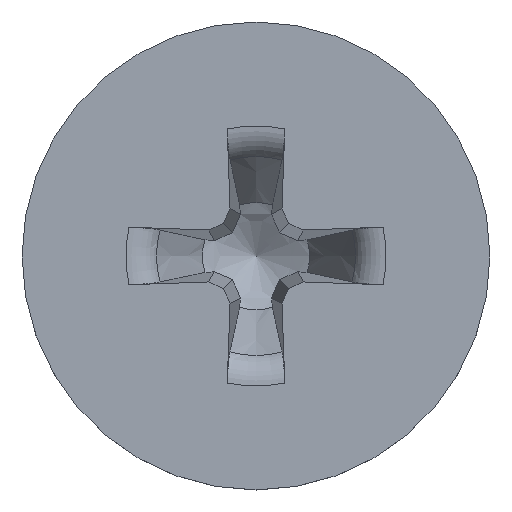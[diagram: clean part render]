
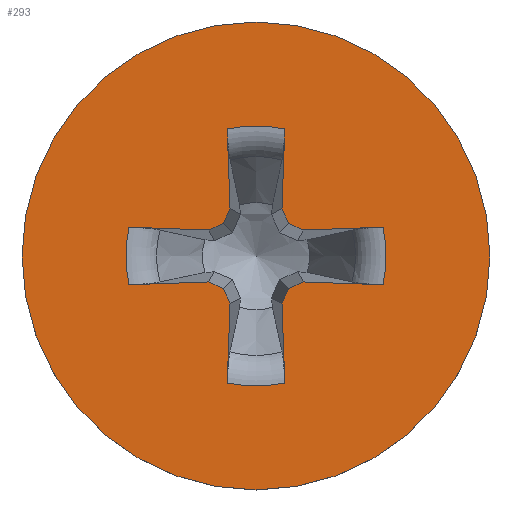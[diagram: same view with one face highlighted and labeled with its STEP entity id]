
A CAD part, top view. The second image highlights one B-rep face of the part: STEP entity #293.
In plain terms, the highlighted planar face has unit normal (0, 0, 1).
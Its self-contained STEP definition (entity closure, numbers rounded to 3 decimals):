
#90=LINE('',#3038,#168);
#91=LINE('',#3043,#169);
#92=LINE('',#3045,#170);
#93=LINE('',#3047,#171);
#94=LINE('',#3049,#172);
#95=LINE('',#3053,#173);
#96=LINE('',#3055,#174);
#97=LINE('',#3057,#175);
#98=LINE('',#3059,#176);
#99=LINE('',#3063,#177);
#100=LINE('',#3065,#178);
#101=LINE('',#3067,#179);
#102=LINE('',#3069,#180);
#103=LINE('',#3073,#181);
#104=LINE('',#3075,#182);
#105=LINE('',#3077,#183);
#168=VECTOR('',#1543,1.);
#169=VECTOR('',#1546,1.);
#170=VECTOR('',#1547,1.);
#171=VECTOR('',#1548,1.);
#172=VECTOR('',#1549,1.);
#173=VECTOR('',#1552,1.);
#174=VECTOR('',#1553,1.);
#175=VECTOR('',#1554,1.);
#176=VECTOR('',#1555,1.);
#177=VECTOR('',#1558,1.);
#178=VECTOR('',#1559,1.);
#179=VECTOR('',#1560,1.);
#180=VECTOR('',#1561,1.);
#181=VECTOR('',#1564,1.);
#182=VECTOR('',#1565,1.);
#183=VECTOR('',#1566,1.);
#247=PLANE('',#1478);
#274=FACE_BOUND('',#476,.T.);
#275=FACE_BOUND('',#477,.T.);
#293=ADVANCED_FACE('',(#274,#275),#247,.F.);
#476=EDGE_LOOP('',(#723,#724,#725,#726,#727,#728,#729,#730,#731,#732,#733,
#734,#735,#736,#737,#738,#739,#740,#741,#742));
#477=EDGE_LOOP('',(#743));
#723=ORIENTED_EDGE('',*,*,#1270,.F.);
#724=ORIENTED_EDGE('',*,*,#1271,.T.);
#725=ORIENTED_EDGE('',*,*,#1272,.F.);
#726=ORIENTED_EDGE('',*,*,#1273,.F.);
#727=ORIENTED_EDGE('',*,*,#1274,.F.);
#728=ORIENTED_EDGE('',*,*,#1275,.F.);
#729=ORIENTED_EDGE('',*,*,#1276,.T.);
#730=ORIENTED_EDGE('',*,*,#1277,.F.);
#731=ORIENTED_EDGE('',*,*,#1278,.F.);
#732=ORIENTED_EDGE('',*,*,#1279,.F.);
#733=ORIENTED_EDGE('',*,*,#1280,.F.);
#734=ORIENTED_EDGE('',*,*,#1281,.T.);
#735=ORIENTED_EDGE('',*,*,#1282,.F.);
#736=ORIENTED_EDGE('',*,*,#1283,.F.);
#737=ORIENTED_EDGE('',*,*,#1284,.F.);
#738=ORIENTED_EDGE('',*,*,#1285,.F.);
#739=ORIENTED_EDGE('',*,*,#1286,.T.);
#740=ORIENTED_EDGE('',*,*,#1287,.F.);
#741=ORIENTED_EDGE('',*,*,#1288,.F.);
#742=ORIENTED_EDGE('',*,*,#1289,.F.);
#743=ORIENTED_EDGE('',*,*,#1290,.F.);
#1136=VERTEX_POINT('',#3039);
#1137=VERTEX_POINT('',#3040);
#1138=VERTEX_POINT('',#3042);
#1139=VERTEX_POINT('',#3044);
#1140=VERTEX_POINT('',#3046);
#1141=VERTEX_POINT('',#3048);
#1142=VERTEX_POINT('',#3050);
#1143=VERTEX_POINT('',#3052);
#1144=VERTEX_POINT('',#3054);
#1145=VERTEX_POINT('',#3056);
#1146=VERTEX_POINT('',#3058);
#1147=VERTEX_POINT('',#3060);
#1148=VERTEX_POINT('',#3062);
#1149=VERTEX_POINT('',#3064);
#1150=VERTEX_POINT('',#3066);
#1151=VERTEX_POINT('',#3068);
#1152=VERTEX_POINT('',#3070);
#1153=VERTEX_POINT('',#3072);
#1154=VERTEX_POINT('',#3074);
#1155=VERTEX_POINT('',#3076);
#1156=VERTEX_POINT('',#3079);
#1270=EDGE_CURVE('',#1136,#1137,#90,.T.);
#1271=EDGE_CURVE('',#1136,#1138,#1445,.T.);
#1272=EDGE_CURVE('',#1139,#1138,#91,.T.);
#1273=EDGE_CURVE('',#1140,#1139,#92,.T.);
#1274=EDGE_CURVE('',#1141,#1140,#93,.T.);
#1275=EDGE_CURVE('',#1142,#1141,#94,.T.);
#1276=EDGE_CURVE('',#1142,#1143,#1446,.T.);
#1277=EDGE_CURVE('',#1144,#1143,#95,.T.);
#1278=EDGE_CURVE('',#1145,#1144,#96,.T.);
#1279=EDGE_CURVE('',#1146,#1145,#97,.T.);
#1280=EDGE_CURVE('',#1147,#1146,#98,.T.);
#1281=EDGE_CURVE('',#1147,#1148,#1447,.T.);
#1282=EDGE_CURVE('',#1149,#1148,#99,.T.);
#1283=EDGE_CURVE('',#1150,#1149,#100,.T.);
#1284=EDGE_CURVE('',#1151,#1150,#101,.T.);
#1285=EDGE_CURVE('',#1152,#1151,#102,.T.);
#1286=EDGE_CURVE('',#1152,#1153,#1448,.T.);
#1287=EDGE_CURVE('',#1154,#1153,#103,.T.);
#1288=EDGE_CURVE('',#1155,#1154,#104,.T.);
#1289=EDGE_CURVE('',#1137,#1155,#105,.T.);
#1290=EDGE_CURVE('',#1156,#1156,#1449,.T.);
#1445=CIRCLE('',#1473,2.784);
#1446=CIRCLE('',#1474,2.784);
#1447=CIRCLE('',#1475,2.784);
#1448=CIRCLE('',#1476,2.784);
#1449=CIRCLE('',#1477,5.);
#1473=AXIS2_PLACEMENT_3D('',#3041,#1544,#1545);
#1474=AXIS2_PLACEMENT_3D('',#3051,#1550,#1551);
#1475=AXIS2_PLACEMENT_3D('',#3061,#1556,#1557);
#1476=AXIS2_PLACEMENT_3D('',#3071,#1562,#1563);
#1477=AXIS2_PLACEMENT_3D('',#3078,#1567,#1568);
#1478=AXIS2_PLACEMENT_3D('',#3080,#1569,#1570);
#1543=DIRECTION('',(-0.999,-0.035,0.));
#1544=DIRECTION('',(0.,0.,-1.));
#1545=DIRECTION('',(-1.,0.,0.));
#1546=DIRECTION('',(0.999,-0.035,0.));
#1547=DIRECTION('',(0.906,0.423,0.));
#1548=DIRECTION('',(0.423,0.906,0.));
#1549=DIRECTION('',(-0.035,0.999,0.));
#1550=DIRECTION('',(0.,0.,-1.));
#1551=DIRECTION('',(-1.,0.,0.));
#1552=DIRECTION('',(-0.035,-0.999,0.));
#1553=DIRECTION('',(0.423,-0.906,0.));
#1554=DIRECTION('',(0.906,-0.423,0.));
#1555=DIRECTION('',(0.999,0.035,0.));
#1556=DIRECTION('',(0.,0.,-1.));
#1557=DIRECTION('',(-1.,0.,0.));
#1558=DIRECTION('',(-0.999,0.035,0.));
#1559=DIRECTION('',(-0.906,-0.423,0.));
#1560=DIRECTION('',(-0.423,-0.906,0.));
#1561=DIRECTION('',(0.035,-0.999,0.));
#1562=DIRECTION('',(0.,0.,-1.));
#1563=DIRECTION('',(-1.,0.,0.));
#1564=DIRECTION('',(0.035,0.999,0.));
#1565=DIRECTION('',(-0.423,0.906,0.));
#1566=DIRECTION('',(-0.906,0.423,0.));
#1567=DIRECTION('',(0.,0.,-1.));
#1568=DIRECTION('',(-1.,0.,0.));
#1569=DIRECTION('',(0.,0.,-1.));
#1570=DIRECTION('',(-1.,0.,0.));
#3038=CARTESIAN_POINT('',(-0.018,0.519,3.79));
#3039=CARTESIAN_POINT('',(2.715,0.615,3.79));
#3040=CARTESIAN_POINT('',(1.01,0.555,3.79));
#3041=CARTESIAN_POINT('',(0.,0.,3.79));
#3042=CARTESIAN_POINT('',(2.715,-0.615,3.79));
#3043=CARTESIAN_POINT('',(-0.018,-0.519,3.79));
#3044=CARTESIAN_POINT('',(1.01,-0.555,3.79));
#3045=CARTESIAN_POINT('',(0.393,-0.843,3.79));
#3046=CARTESIAN_POINT('',(0.7,-0.7,3.79));
#3047=CARTESIAN_POINT('',(0.843,-0.393,3.79));
#3048=CARTESIAN_POINT('',(0.555,-1.01,3.79));
#3049=CARTESIAN_POINT('',(0.519,0.018,3.79));
#3050=CARTESIAN_POINT('',(0.615,-2.715,3.79));
#3051=CARTESIAN_POINT('',(0.,0.,3.79));
#3052=CARTESIAN_POINT('',(-0.615,-2.715,3.79));
#3053=CARTESIAN_POINT('',(-0.519,0.018,3.79));
#3054=CARTESIAN_POINT('',(-0.555,-1.01,3.79));
#3055=CARTESIAN_POINT('',(-0.843,-0.393,3.79));
#3056=CARTESIAN_POINT('',(-0.7,-0.7,3.79));
#3057=CARTESIAN_POINT('',(-0.393,-0.843,3.79));
#3058=CARTESIAN_POINT('',(-1.01,-0.555,3.79));
#3059=CARTESIAN_POINT('',(0.018,-0.519,3.79));
#3060=CARTESIAN_POINT('',(-2.715,-0.615,3.79));
#3061=CARTESIAN_POINT('',(0.,0.,3.79));
#3062=CARTESIAN_POINT('',(-2.715,0.615,3.79));
#3063=CARTESIAN_POINT('',(0.018,0.519,3.79));
#3064=CARTESIAN_POINT('',(-1.01,0.555,3.79));
#3065=CARTESIAN_POINT('',(-0.393,0.843,3.79));
#3066=CARTESIAN_POINT('',(-0.7,0.7,3.79));
#3067=CARTESIAN_POINT('',(-0.843,0.393,3.79));
#3068=CARTESIAN_POINT('',(-0.555,1.01,3.79));
#3069=CARTESIAN_POINT('',(-0.519,-0.018,3.79));
#3070=CARTESIAN_POINT('',(-0.615,2.715,3.79));
#3071=CARTESIAN_POINT('',(0.,0.,3.79));
#3072=CARTESIAN_POINT('',(0.615,2.715,3.79));
#3073=CARTESIAN_POINT('',(0.519,-0.018,3.79));
#3074=CARTESIAN_POINT('',(0.555,1.01,3.79));
#3075=CARTESIAN_POINT('',(0.843,0.393,3.79));
#3076=CARTESIAN_POINT('',(0.7,0.7,3.79));
#3077=CARTESIAN_POINT('',(0.393,0.843,3.79));
#3078=CARTESIAN_POINT('',(0.,0.,3.79));
#3079=CARTESIAN_POINT('',(-5.,0.,3.79));
#3080=CARTESIAN_POINT('',(0.,0.,3.79));
